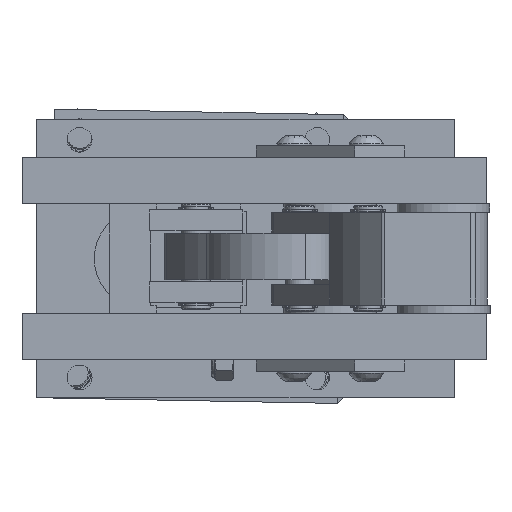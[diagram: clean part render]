
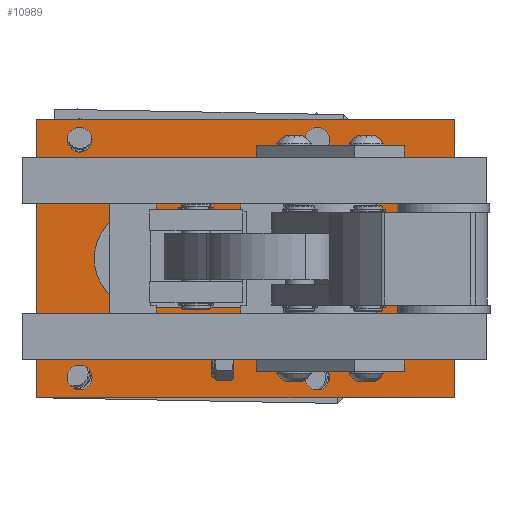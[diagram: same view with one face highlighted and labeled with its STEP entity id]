
A CAD part, left-side view. The second image highlights one B-rep face of the part: STEP entity #10989.
In plain terms, the highlighted planar face has unit normal (-1, 0, 0) as drawn and (0, 0, -1) by its records, which use the part's own axes.
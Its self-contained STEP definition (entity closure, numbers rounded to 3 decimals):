
#699=LINE($,#18983,#1201);
#703=LINE($,#18994,#1205);
#707=LINE($,#19003,#1209);
#711=LINE($,#19010,#1213);
#714=LINE($,#19016,#1216);
#716=LINE($,#19019,#1218);
#1201=VECTOR($,#14626,30.);
#1205=VECTOR($,#14638,30.);
#1209=VECTOR($,#14644,76.2);
#1213=VECTOR($,#14650,114.3);
#1216=VECTOR($,#14655,76.2);
#1218=VECTOR($,#14659,114.3);
#2391=FACE_BOUND($,#4055,.T.);
#2392=FACE_BOUND($,#4056,.T.);
#2393=FACE_BOUND($,#4057,.T.);
#2394=FACE_BOUND($,#4058,.T.);
#2395=FACE_BOUND($,#4059,.T.);
#2396=FACE_BOUND($,#4060,.T.);
#2397=FACE_BOUND($,#4061,.T.);
#2398=FACE_BOUND($,#4062,.T.);
#2399=FACE_BOUND($,#4063,.T.);
#2400=FACE_BOUND($,#4064,.T.);
#4055=EDGE_LOOP($,(#8883));
#4056=EDGE_LOOP($,(#8884));
#4057=EDGE_LOOP($,(#8885));
#4058=EDGE_LOOP($,(#8886));
#4059=EDGE_LOOP($,(#8887));
#4060=EDGE_LOOP($,(#8888));
#4061=EDGE_LOOP($,(#8889));
#4062=EDGE_LOOP($,(#8890));
#4063=EDGE_LOOP($,(#8891,#8892,#8893,#8894));
#4064=EDGE_LOOP($,(#8895,#8896,#8897,#8898));
#4992=CIRCLE($,#12150,3.391);
#4994=CIRCLE($,#12153,3.391);
#4996=CIRCLE($,#12156,3.391);
#4998=CIRCLE($,#12159,3.391);
#5003=CIRCLE($,#12167,4.25);
#5007=CIRCLE($,#12174,4.25);
#5011=CIRCLE($,#12181,4.25);
#5015=CIRCLE($,#12188,4.25);
#5016=CIRCLE($,#12190,13.487);
#5018=CIRCLE($,#12194,13.487);
#5779=VERTEX_POINT($,#18909);
#5781=VERTEX_POINT($,#18914);
#5783=VERTEX_POINT($,#18919);
#5785=VERTEX_POINT($,#18924);
#5790=VERTEX_POINT($,#18937);
#5794=VERTEX_POINT($,#18948);
#5798=VERTEX_POINT($,#18959);
#5802=VERTEX_POINT($,#18970);
#5803=VERTEX_POINT($,#18973);
#5804=VERTEX_POINT($,#18974);
#5807=VERTEX_POINT($,#18982);
#5809=VERTEX_POINT($,#18988);
#5813=VERTEX_POINT($,#19000);
#5814=VERTEX_POINT($,#19002);
#5816=VERTEX_POINT($,#19008);
#5818=VERTEX_POINT($,#19014);
#6914=EDGE_CURVE($,#5779,#5779,#4992,.T.);
#6916=EDGE_CURVE($,#5781,#5781,#4994,.T.);
#6918=EDGE_CURVE($,#5783,#5783,#4996,.T.);
#6920=EDGE_CURVE($,#5785,#5785,#4998,.T.);
#6925=EDGE_CURVE($,#5790,#5790,#5003,.T.);
#6929=EDGE_CURVE($,#5794,#5794,#5007,.T.);
#6933=EDGE_CURVE($,#5798,#5798,#5011,.T.);
#6937=EDGE_CURVE($,#5802,#5802,#5015,.T.);
#6938=EDGE_CURVE($,#5803,#5804,#5016,.T.);
#6942=EDGE_CURVE($,#5804,#5807,#699,.T.);
#6945=EDGE_CURVE($,#5807,#5809,#5018,.T.);
#6948=EDGE_CURVE($,#5809,#5803,#703,.T.);
#6952=EDGE_CURVE($,#5814,#5813,#707,.T.);
#6956=EDGE_CURVE($,#5813,#5816,#711,.T.);
#6959=EDGE_CURVE($,#5816,#5818,#714,.T.);
#6961=EDGE_CURVE($,#5818,#5814,#716,.T.);
#8883=ORIENTED_EDGE($,*,*,#6914,.T.);
#8884=ORIENTED_EDGE($,*,*,#6916,.T.);
#8885=ORIENTED_EDGE($,*,*,#6918,.T.);
#8886=ORIENTED_EDGE($,*,*,#6920,.T.);
#8887=ORIENTED_EDGE($,*,*,#6925,.T.);
#8888=ORIENTED_EDGE($,*,*,#6929,.T.);
#8889=ORIENTED_EDGE($,*,*,#6933,.T.);
#8890=ORIENTED_EDGE($,*,*,#6937,.T.);
#8891=ORIENTED_EDGE($,*,*,#6945,.T.);
#8892=ORIENTED_EDGE($,*,*,#6948,.T.);
#8893=ORIENTED_EDGE($,*,*,#6938,.T.);
#8894=ORIENTED_EDGE($,*,*,#6942,.T.);
#8895=ORIENTED_EDGE($,*,*,#6961,.T.);
#8896=ORIENTED_EDGE($,*,*,#6952,.T.);
#8897=ORIENTED_EDGE($,*,*,#6956,.T.);
#8898=ORIENTED_EDGE($,*,*,#6959,.T.);
#10412=PLANE($,#12202);
#10989=ADVANCED_FACE($,(#2391,#2392,#2393,#2394,#2395,#2396,#2397,#2398,
#2399,#2400),#10412,.F.);
#12150=AXIS2_PLACEMENT_3D($,#18910,#14538,#14539);
#12153=AXIS2_PLACEMENT_3D($,#18915,#14544,#14545);
#12156=AXIS2_PLACEMENT_3D($,#18920,#14550,#14551);
#12159=AXIS2_PLACEMENT_3D($,#18925,#14556,#14557);
#12167=AXIS2_PLACEMENT_3D($,#18938,#14572,#14573);
#12174=AXIS2_PLACEMENT_3D($,#18949,#14586,#14587);
#12181=AXIS2_PLACEMENT_3D($,#18960,#14600,#14601);
#12188=AXIS2_PLACEMENT_3D($,#18971,#14614,#14615);
#12190=AXIS2_PLACEMENT_3D($,#18975,#14618,#14619);
#12194=AXIS2_PLACEMENT_3D($,#18989,#14631,#14632);
#12202=AXIS2_PLACEMENT_3D($,#19021,#14662,#14663);
#14538=DIRECTION('center_axis',(0.,0.,1.));
#14539=DIRECTION('ref_axis',(1.,0.,0.));
#14544=DIRECTION('center_axis',(0.,0.,1.));
#14545=DIRECTION('ref_axis',(1.,0.,0.));
#14550=DIRECTION('center_axis',(0.,0.,1.));
#14551=DIRECTION('ref_axis',(1.,0.,0.));
#14556=DIRECTION('center_axis',(0.,0.,1.));
#14557=DIRECTION('ref_axis',(1.,0.,0.));
#14572=DIRECTION('center_axis',(0.,0.,1.));
#14573=DIRECTION('ref_axis',(1.,0.,0.));
#14586=DIRECTION('center_axis',(0.,0.,1.));
#14587=DIRECTION('ref_axis',(1.,0.,0.));
#14600=DIRECTION('center_axis',(0.,0.,1.));
#14601=DIRECTION('ref_axis',(1.,0.,0.));
#14614=DIRECTION('center_axis',(0.,0.,1.));
#14615=DIRECTION('ref_axis',(1.,0.,0.));
#14618=DIRECTION('center_axis',(0.,0.,1.));
#14619=DIRECTION('ref_axis',(0.,1.,0.));
#14626=DIRECTION($,(-1.,0.,0.));
#14631=DIRECTION('center_axis',(0.,0.,1.));
#14632=DIRECTION('ref_axis',(0.,-1.,0.));
#14638=DIRECTION($,(1.,0.,0.));
#14644=DIRECTION($,(0.,-1.,0.));
#14650=DIRECTION($,(-1.,0.,0.));
#14655=DIRECTION($,(0.,1.,0.));
#14659=DIRECTION($,(1.,0.,0.));
#14662=DIRECTION('center_axis',(0.,0.,1.));
#14663=DIRECTION('ref_axis',(1.,0.,0.));
#18909=CARTESIAN_POINT('',(49.702,-55.191,0.));
#18910=CARTESIAN_POINT('Origin',(53.093,-55.191,0.));
#18914=CARTESIAN_POINT('',(49.702,9.809,0.));
#18915=CARTESIAN_POINT('Origin',(53.093,9.809,0.));
#18919=CARTESIAN_POINT('',(-15.298,-55.191,0.));
#18920=CARTESIAN_POINT('Origin',(-11.907,-55.191,0.));
#18924=CARTESIAN_POINT('',(-15.298,9.809,0.));
#18925=CARTESIAN_POINT('Origin',(-11.907,9.809,0.));
#18937=CARTESIAN_POINT('',(76.343,-44.016,0.));
#18938=CARTESIAN_POINT('Origin',(80.593,-44.016,0.));
#18948=CARTESIAN_POINT('',(16.343,-44.016,0.));
#18949=CARTESIAN_POINT('Origin',(20.593,-44.016,0.));
#18959=CARTESIAN_POINT('',(76.343,-1.366,0.));
#18960=CARTESIAN_POINT('Origin',(80.593,-1.366,0.));
#18970=CARTESIAN_POINT('',(16.343,-1.366,0.));
#18971=CARTESIAN_POINT('Origin',(20.593,-1.366,0.));
#18973=CARTESIAN_POINT('',(35.593,-36.178,0.));
#18974=CARTESIAN_POINT('',(35.593,-9.203,0.));
#18975=CARTESIAN_POINT('Origin',(35.593,-22.691,0.));
#18982=CARTESIAN_POINT('',(5.593,-9.203,0.));
#18983=CARTESIAN_POINT($,(34.518,-9.203,0.));
#18988=CARTESIAN_POINT('',(5.593,-36.178,0.));
#18989=CARTESIAN_POINT('Origin',(5.593,-22.691,0.));
#18994=CARTESIAN_POINT($,(19.518,-36.178,0.));
#19000=CARTESIAN_POINT('',(90.593,-60.791,0.));
#19002=CARTESIAN_POINT('',(90.593,15.409,0.));
#19003=CARTESIAN_POINT($,(90.593,15.409,0.));
#19008=CARTESIAN_POINT('',(-23.707,-60.791,0.));
#19010=CARTESIAN_POINT($,(90.593,-60.791,0.));
#19014=CARTESIAN_POINT('',(-23.707,15.409,0.));
#19016=CARTESIAN_POINT($,(-23.707,-60.791,0.));
#19019=CARTESIAN_POINT($,(-23.707,15.409,0.));
#19021=CARTESIAN_POINT('Origin',(33.443,-22.691,0.));
